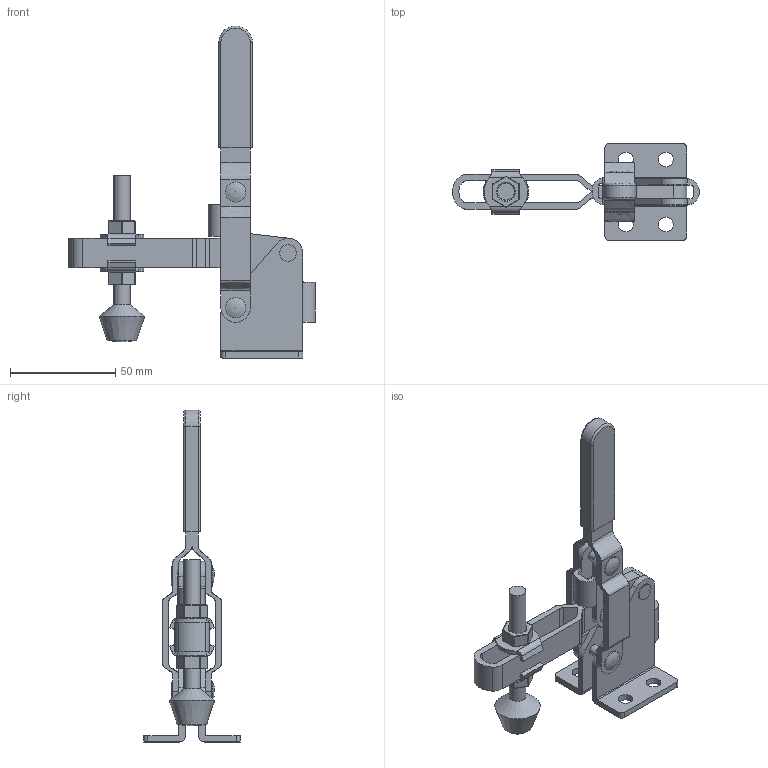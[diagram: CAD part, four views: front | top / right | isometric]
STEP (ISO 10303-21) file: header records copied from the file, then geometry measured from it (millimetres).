
FILE_DESCRIPTION(/* description */ (''),/* implementation_level */ '2;1');
FILE_NAME(/* name */ '\\NAS\db20\018-11FS\DR_018-11FS.stp',/* time_stamp */ '2018-03-02T13:47:33+09:00',/* author */ ('user'),/* organization */ (''),/* preprocessor_version */ 'ST-DEVELOPER v15.6',/* originating_system */ 'Autodesk Inventor 2015',/* authorisation */ '');
FILE_SCHEMA (('AUTOMOTIVE_DESIGN { 1 0 10303 214 3 1 1 }'));
Length unit declared in the file: millimetre
Products named in the file (9): DR_018-11FS-B; DR_018-11FS-BR; DR_018-11FS-C; DR_018-11FS-H; DR_TCB8-W; DR_NUT-M8; DR_TCB-M8; DR_018-11FS
Bounding box: 117.47 x 46 x 158 mm (x, y, z)
Volume: 52570.4 mm3; surface area: 36727.3 mm2
Topology: 10 solids, 10 shells, 327 faces, 812 edges, 510 vertices
Faces by surface type: cylinder 132, plane 129, torus 32, bspline 21, cone 10, sphere 3
Full cylindrical faces by diameter (mm): 4 x1, 5 x15, 7 x5, 8 x4, 8.5 x2, 9.6 x2, 9.8 x1
Entity records: 8694 total; most frequent: CARTESIAN_POINT 2344, DIRECTION 1310, ORIENTED_EDGE 1196, EDGE_CURVE 598, AXIS2_PLACEMENT_3D 492, VERTEX_POINT 406, EDGE_LOOP 346, LINE 326
